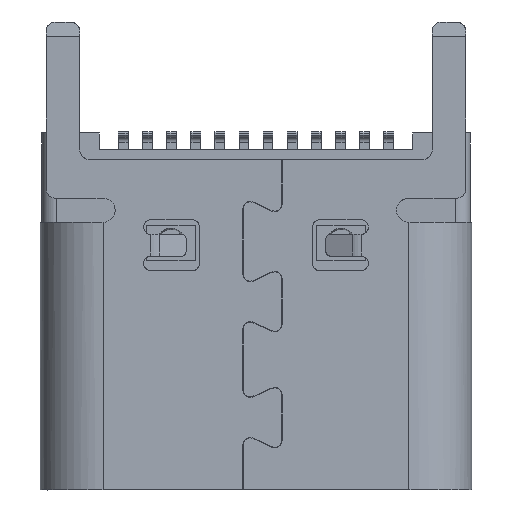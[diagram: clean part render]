
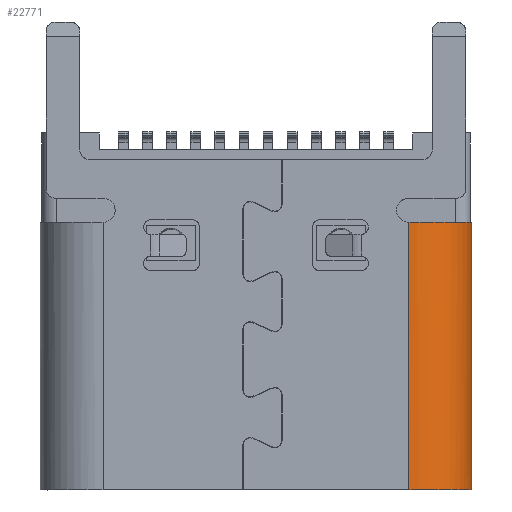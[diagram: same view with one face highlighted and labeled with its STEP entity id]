
A CAD part, front view. The second image highlights one B-rep face of the part: STEP entity #22771.
In plain terms, the highlighted cylindrical face has radius 1.3 mm (diameter 2.6 mm), a partial arc.
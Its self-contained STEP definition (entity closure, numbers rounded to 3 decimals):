
#737 = CARTESIAN_POINT ( 'NONE',  ( 4.303, 0.293, 5.669 ) ) ;
#903 = CARTESIAN_POINT ( 'NONE',  ( 4.273, 0.109, 5.669 ) ) ;
#2209 = CARTESIAN_POINT ( 'NONE',  ( 4.273, 0.109, 5.669 ) ) ;
#3356 = ORIENTED_EDGE ( 'NONE', *, *, #34724, .T. ) ;
#3515 = B_SPLINE_CURVE_WITH_KNOTS ( 'NONE', 3,
 ( #12215, #23130, #9875, #4367 ),
 .UNSPECIFIED., .F., .F.,
 ( 4, 4 ),
 ( 0., 1. ),
 .UNSPECIFIED. ) ;
#3562 = ORIENTED_EDGE ( 'NONE', *, *, #25882, .T. ) ;
#4367 = CARTESIAN_POINT ( 'NONE',  ( 4.303, 0.386, 5.669 ) ) ;
#4546 = ORIENTED_EDGE ( 'NONE', *, *, #24704, .T. ) ;
#5168 = ORIENTED_EDGE ( 'NONE', *, *, #14849, .T. ) ;
#5530 = CARTESIAN_POINT ( 'NONE',  ( 4.269, 0.046, 0.119 ) ) ;
#6554 = CARTESIAN_POINT ( 'NONE',  ( 3.868, -0.584, 5.669 ) ) ;
#6698 = CARTESIAN_POINT ( 'NONE',  ( 3.003, 0.386, 6.171 ) ) ;
#6815 = AXIS2_PLACEMENT_3D ( 'NONE', #6698, #6872, #9020 ) ;
#6872 = DIRECTION ( 'NONE',  ( 0., 0., 1. ) ) ;
#7284 = CARTESIAN_POINT ( 'NONE',  ( 3.003, -0.914, 3.819 ) ) ;
#8020 = CARTESIAN_POINT ( 'NONE',  ( 3.173, -0.914, 0.119 ) ) ;
#8659 = CARTESIAN_POINT ( 'NONE',  ( 3.868, -0.584, 5.669 ) ) ;
#9020 = DIRECTION ( 'NONE',  ( 1., 0., 0. ) ) ;
#9362 = VERTEX_POINT ( 'NONE', #35263 ) ;
#9875 = CARTESIAN_POINT ( 'NONE',  ( 4.303, 0.386, 3.819 ) ) ;
#10310 = CARTESIAN_POINT ( 'NONE',  ( 3.003, -0.914, 1.969 ) ) ;
#10511 = CARTESIAN_POINT ( 'NONE',  ( 3.343, -0.88, 0.119 ) ) ;
#11945 = CARTESIAN_POINT ( 'NONE',  ( 4.293, 0.2, 5.669 ) ) ;
#12215 = CARTESIAN_POINT ( 'NONE',  ( 4.303, 0.386, 0.119 ) ) ;
#12759 = EDGE_LOOP ( 'NONE', ( #26186, #3356, #3562, #4546, #26934, #5168 ) ) ;
#12907 = CARTESIAN_POINT ( 'NONE',  ( 4.303, 0.386, 0.119 ) ) ;
#13576 = CARTESIAN_POINT ( 'NONE',  ( 4.042, -0.413, 0.119 ) ) ;
#14288 = CARTESIAN_POINT ( 'NONE',  ( 4.303, 0.386, 5.669 ) ) ;
#14849 = EDGE_CURVE ( 'NONE', #29775, #22139, #3515, .T. ) ;
#17993 = CARTESIAN_POINT ( 'NONE',  ( 3.633, -0.794, 5.669 ) ) ;
#18768 = B_SPLINE_CURVE_WITH_KNOTS ( 'NONE', 3,
 ( #6554, #17993, #20174, #33835 ),
 .UNSPECIFIED., .F., .F.,
 ( 4, 4 ),
 ( 0., 1. ),
 .UNSPECIFIED. ) ;
#18824 = CARTESIAN_POINT ( 'NONE',  ( 4.071, -0.403, 5.669 ) ) ;
#19120 = CARTESIAN_POINT ( 'NONE',  ( 4.139, -0.268, 0.119 ) ) ;
#20174 = CARTESIAN_POINT ( 'NONE',  ( 3.319, -0.914, 5.669 ) ) ;
#20318 = B_SPLINE_CURVE_WITH_KNOTS ( 'NONE', 3,
 ( #2209, #34823, #18824, #34988 ),
 .UNSPECIFIED., .F., .F.,
 ( 4, 4 ),
 ( 0., 1. ),
 .UNSPECIFIED. ) ;
#22112 = CARTESIAN_POINT ( 'NONE',  ( 4.273, 0.109, 5.669 ) ) ;
#22139 = VERTEX_POINT ( 'NONE', #33719 ) ;
#22332 = CARTESIAN_POINT ( 'NONE',  ( 3.003, -0.914, 5.669 ) ) ;
#22702 = VERTEX_POINT ( 'NONE', #22112 ) ;
#22771 = ADVANCED_FACE ( 'NONE', ( #28488 ), #33636, .T. ) ;
#23130 = CARTESIAN_POINT ( 'NONE',  ( 4.303, 0.386, 1.969 ) ) ;
#24299 = CARTESIAN_POINT ( 'NONE',  ( 3.003, -0.914, 0.119 ) ) ;
#24482 = CARTESIAN_POINT ( 'NONE',  ( 4.303, 0.386, 0.119 ) ) ;
#24704 = EDGE_CURVE ( 'NONE', #28824, #9362, #31609, .T. ) ;
#25882 = EDGE_CURVE ( 'NONE', #26181, #28824, #18768, .T. ) ;
#26181 = VERTEX_POINT ( 'NONE', #8659 ) ;
#26186 = ORIENTED_EDGE ( 'NONE', *, *, #31992, .T. ) ;
#26589 = CARTESIAN_POINT ( 'NONE',  ( 3.003, -0.914, 0.119 ) ) ;
#26934 = ORIENTED_EDGE ( 'NONE', *, *, #28221, .T. ) ;
#27031 = B_SPLINE_CURVE_WITH_KNOTS ( 'NONE', 3,
 ( #24299, #8020, #10511, #27141, #32807, #13576, #19120, #5530, #29954, #24482 ),
 .UNSPECIFIED., .F., .F.,
 ( 4, 2, 2, 2, 4 ),
 ( 0., 0.25, 0.5, 0.75, 1. ),
 .UNSPECIFIED. ) ;
#27039 = B_SPLINE_CURVE_WITH_KNOTS ( 'NONE', 3,
 ( #14288, #737, #11945, #903 ),
 .UNSPECIFIED., .F., .F.,
 ( 4, 4 ),
 ( 0., 1. ),
 .UNSPECIFIED. ) ;
#27141 = CARTESIAN_POINT ( 'NONE',  ( 3.658, -0.75, 0.119 ) ) ;
#28221 = EDGE_CURVE ( 'NONE', #9362, #29775, #27031, .T. ) ;
#28488 = FACE_OUTER_BOUND ( 'NONE', #12759, .T. ) ;
#28824 = VERTEX_POINT ( 'NONE', #22332 ) ;
#29235 = CARTESIAN_POINT ( 'NONE',  ( 3.003, -0.914, 5.669 ) ) ;
#29775 = VERTEX_POINT ( 'NONE', #12907 ) ;
#29954 = CARTESIAN_POINT ( 'NONE',  ( 4.303, 0.216, 0.119 ) ) ;
#31609 = B_SPLINE_CURVE_WITH_KNOTS ( 'NONE', 3,
 ( #29235, #7284, #10310, #26589 ),
 .UNSPECIFIED., .F., .F.,
 ( 4, 4 ),
 ( 0., 1. ),
 .UNSPECIFIED. ) ;
#31992 = EDGE_CURVE ( 'NONE', #22139, #22702, #27039, .T. ) ;
#32807 = CARTESIAN_POINT ( 'NONE',  ( 3.802, -0.653, 0.119 ) ) ;
#33636 = CYLINDRICAL_SURFACE ( 'NONE', #6815, 1.3 ) ;
#33719 = CARTESIAN_POINT ( 'NONE',  ( 4.303, 0.386, 5.669 ) ) ;
#33835 = CARTESIAN_POINT ( 'NONE',  ( 3.003, -0.914, 5.669 ) ) ;
#34724 = EDGE_CURVE ( 'NONE', #22702, #26181, #20318, .T. ) ;
#34823 = CARTESIAN_POINT ( 'NONE',  ( 4.215, -0.157, 5.669 ) ) ;
#34988 = CARTESIAN_POINT ( 'NONE',  ( 3.868, -0.584, 5.669 ) ) ;
#35263 = CARTESIAN_POINT ( 'NONE',  ( 3.003, -0.914, 0.119 ) ) ;
